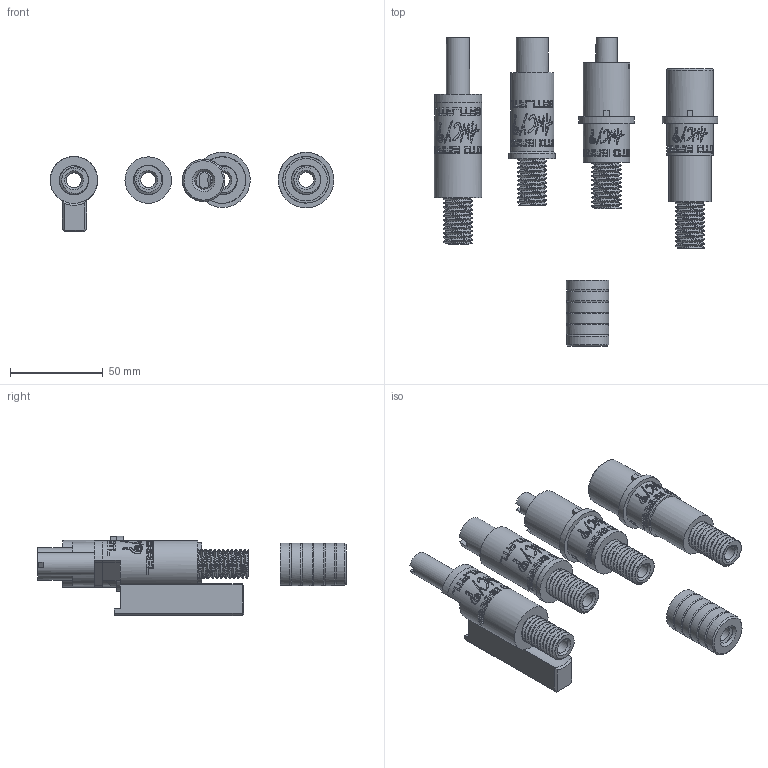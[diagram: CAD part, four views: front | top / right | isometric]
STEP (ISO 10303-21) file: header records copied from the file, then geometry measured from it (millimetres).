
FILE_DESCRIPTION(/* description */ (''),/* implementation_level */ '2;1');
FILE_NAME(/* name */ '//freenas/assets/3D.Printing/Firearms/Barrel Liner/AWCY Proto Barrel/G22/Proto Barrel RC1 v75.step',/* time_stamp */ '2022-01-09T10:22:02-05:00',/* author */ (''),/* organization */ (''),/* preprocessor_version */ 'ST-DEVELOPER v18.1',/* originating_system */ 'Autodesk Translation Framework v10.10.0.1391',/* authorisation */ '');
FILE_SCHEMA (('AUTOMOTIVE_DESIGN { 1 0 10303 214 3 1 1 }'));
Products named in the file (3): Proto Barrel RC1; Proto Barrel Parts; Gatlatl Breech Retainers
Assembly tree (2 placements, depth 3):
  Proto Barrel RC1
    Proto Barrel Parts
      Gatlatl Breech Retainers
Bounding box: 152.67 x 166.29 x 42.96 mm (x, y, z)
Volume: 127625.4 mm3; surface area: 55210.9 mm2
Topology: 5 solids, 6 shells, 3055 faces, 8633 edges, 5742 vertices
Faces by surface type: bspline 1917, plane 809, cylinder 308, cone 11, torus 10
Full cylindrical faces by diameter (mm): 2 x1, 4 x1, 7 x1, 8.1 x5, 8.2 x1, 8.4 x1, 11.4 x1, 12.5 x1, 13.086 x10, 13.127 x30, 13.541 x10, 15 x1, 15.603 x10, 15.723 x30, 15.875 x10, 17.44 x1, 21.291 x1, 22.8 x7, 23.368 x1, 25 x3, 25.222 x2, 29.845 x2
Entity records: 148107 total; most frequent: CARTESIAN_POINT 83653, ORIENTED_EDGE 17266, EDGE_CURVE 8633, DIRECTION 6567, VERTEX_POINT 5742, B_SPLINE_CURVE_WITH_KNOTS 4831, LINE 3313, VECTOR 3313
